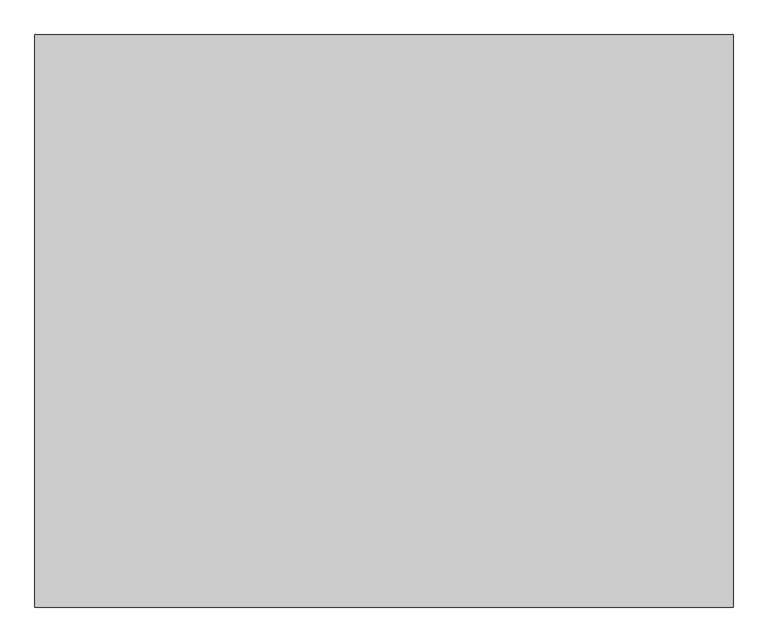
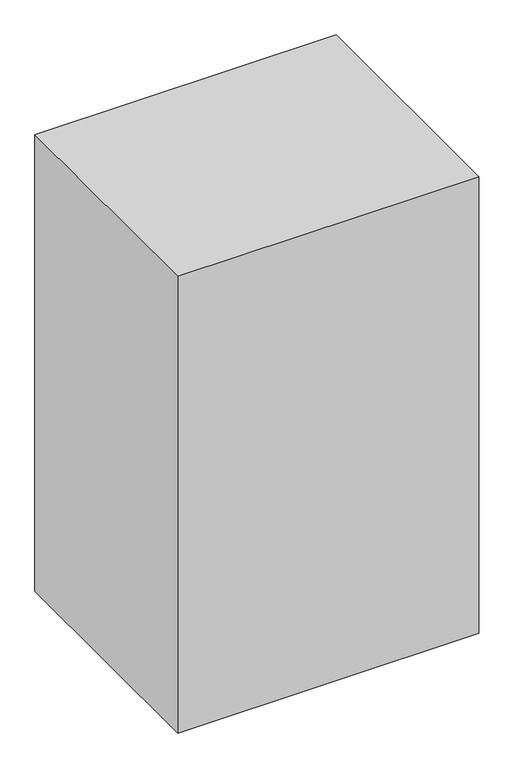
"""IFC4 building model written with IfcOpenShell, lengths in millimetres: proxy geometry."""

from ifc_helpers import new_model, si_unit, origin, origin_with_axes, place, context, project, spatial, polyline, outline, extrude, source, transform, mapped, element, save


def generic_models_e06866c9(model_context):
    return source(origin(), model_context, "Body", "SweptSolid", [
        extrude(outline(polyline([(-32292.9988284, -12700.7903364), (-34244.9987968, -12700.7903364), (-34244.9987968, -11099.999999), (-32292.9988284, -11099.999999), (-32292.9988284, -12700.7903364)])), origin_with_axes(), (0.0, 0.0, 1.0), 3130.0),
    ])


if __name__ == "__main__":
    model = new_model("IFC4")
    model_context = context("Model", 3, world=origin())
    ifc_project = project(units=[si_unit("LENGTHUNIT", "METRE", prefix="MILLI")], contexts=[model_context])
    site = spatial("IfcSite", under=ifc_project)
    building = spatial("IfcBuilding", under=site)
    placement = place(None, origin())
    generic_models_shape = generic_models_e06866c9(model_context)
    element("IfcBuildingElementProxy", 1, Name="Generic Models", at=placement, inside=building, context=model_context, shape_type="MappedRepresentation", body=[
        mapped(generic_models_shape, transform((0.0, 0.0, 0.0), x_axis=(1.0, 0.0, 0.0), y_axis=(0.0, 1.0, 0.0), z_axis=(0.0, 0.0, 1.0))),
    ])
    save(model, "model.ifc")
